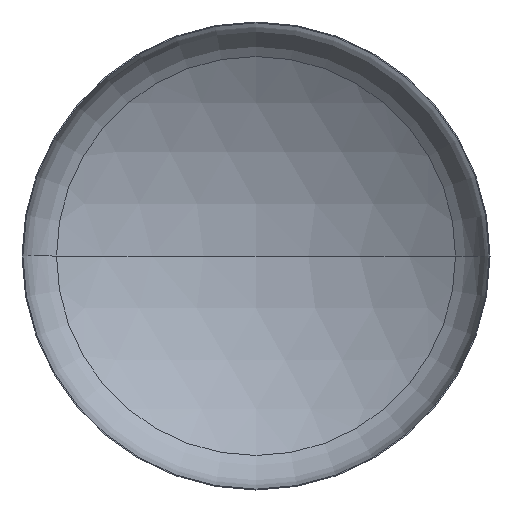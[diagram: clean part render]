
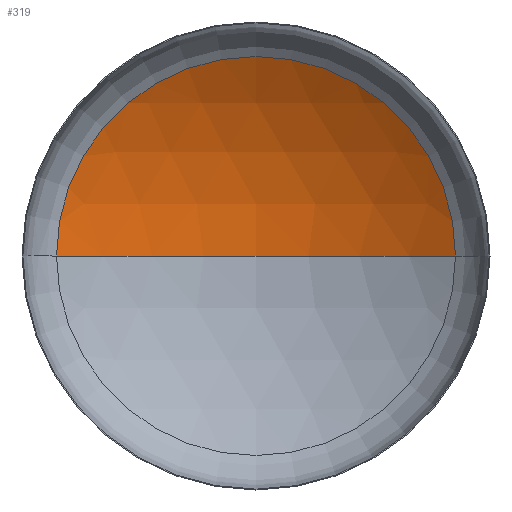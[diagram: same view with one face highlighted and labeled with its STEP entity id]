
A CAD part, front view. The second image highlights one B-rep face of the part: STEP entity #319.
In plain terms, the highlighted spherical face has radius 6400 mm.
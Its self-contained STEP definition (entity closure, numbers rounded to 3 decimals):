
#12 = AXIS2_PLACEMENT_3D ( 'NONE', #141, #154, #262 ) ;
#20 = VERTEX_POINT ( 'NONE', #278 ) ;
#48 = ORIENTED_EDGE ( 'NONE', *, *, #172, .T. ) ;
#49 = VERTEX_POINT ( 'NONE', #276 ) ;
#57 = ORIENTED_EDGE ( 'NONE', *, *, #175, .T. ) ;
#58 = VERTEX_POINT ( 'NONE', #257 ) ;
#67 = CARTESIAN_POINT ( 'NONE',  ( 0., 1085.813, 0. ) ) ;
#75 = AXIS2_PLACEMENT_3D ( 'NONE', #215, #254, #253 ) ;
#83 = AXIS2_PLACEMENT_3D ( 'NONE', #185, #204, #205 ) ;
#91 = AXIS2_PLACEMENT_3D ( 'NONE', #67, #282, #306 ) ;
#112 = ORIENTED_EDGE ( 'NONE', *, *, #179, .F. ) ;
#114 = EDGE_LOOP ( 'NONE', ( #112, #57, #48 ) ) ;
#141 = CARTESIAN_POINT ( 'NONE',  ( 0., -4329.8, 0. ) ) ;
#144 = SPHERICAL_SURFACE ( 'NONE', #12, 6400. ) ;
#154 = DIRECTION ( 'NONE',  ( 0., 0., -1. ) ) ;
#172 = EDGE_CURVE ( 'NONE', #58, #20, #313, .T. ) ;
#175 = EDGE_CURVE ( 'NONE', #49, #58, #252, .T. ) ;
#179 = EDGE_CURVE ( 'NONE', #49, #20, #304, .T. ) ;
#185 = CARTESIAN_POINT ( 'NONE',  ( 0., -4329.8, 0. ) ) ;
#204 = DIRECTION ( 'NONE',  ( 0., 0., -1. ) ) ;
#205 = DIRECTION ( 'NONE',  ( -1., 0., 0. ) ) ;
#215 = CARTESIAN_POINT ( 'NONE',  ( 0., -4329.8, 0. ) ) ;
#218 = FACE_OUTER_BOUND ( 'NONE', #114, .T. ) ;
#252 = CIRCLE ( 'NONE', #83, 6400. ) ;
#253 = DIRECTION ( 'NONE',  ( 1., 0., 0. ) ) ;
#254 = DIRECTION ( 'NONE',  ( 0., 0., 1. ) ) ;
#257 = CARTESIAN_POINT ( 'NONE',  ( 3410.445, 1085.813, 0. ) ) ;
#262 = DIRECTION ( 'NONE',  ( -1., 0., 0. ) ) ;
#276 = CARTESIAN_POINT ( 'NONE',  ( 0., 2070.2, 0. ) ) ;
#278 = CARTESIAN_POINT ( 'NONE',  ( -3410.445, 1085.813, 0. ) ) ;
#282 = DIRECTION ( 'NONE',  ( 0., -1., 0. ) ) ;
#304 = CIRCLE ( 'NONE', #75, 6400. ) ;
#306 = DIRECTION ( 'NONE',  ( 1., 0., 0. ) ) ;
#313 = CIRCLE ( 'NONE', #91, 3410.445 ) ;
#319 = ADVANCED_FACE ( 'NONE', ( #218 ), #144, .F. ) ;
